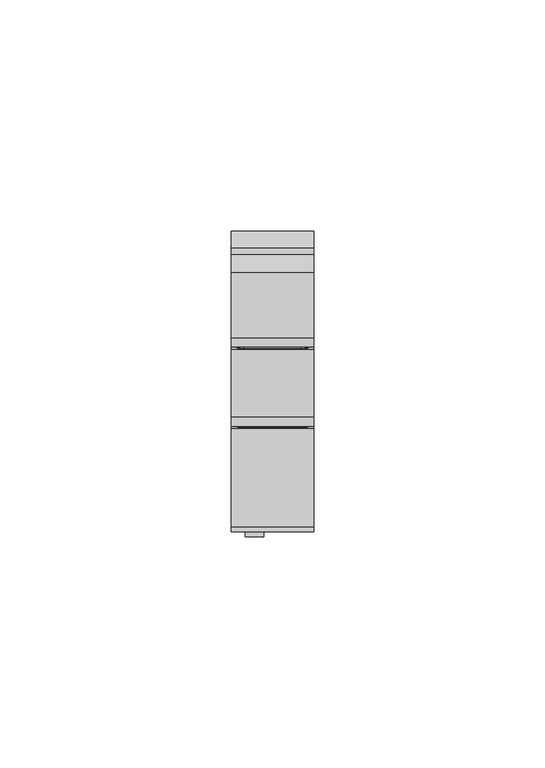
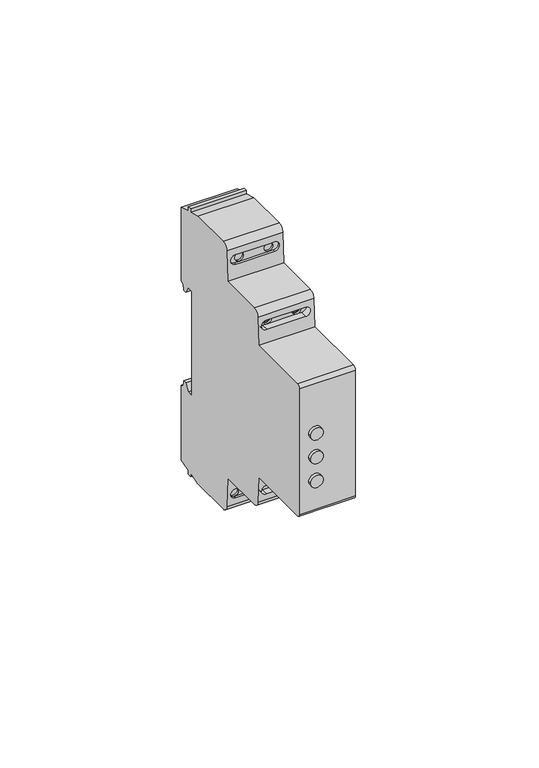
"""IFC4 building model written with IfcOpenShell, lengths in millimetres: proxy geometry, TDM_ОГРАНИЧИТЕЛЬ МОЩНОСТИ СЕРИИ ОМ-611 : Диапазон 0.5-5кВА."""

import ifcopenshell
import ifcopenshell.guid

model = None  # the IFC model being written
_history = None  # IfcOwnerHistory: only IFC2X3 demands one
_inside = {}  # id of a spatial element -> (the spatial element, [elements in it])
_under = {}  # id of a project, library or spatial element -> (it, [spatial elements below it])
_declared = {}  # id of a project -> (the project, [libraries it declares])
_typed = {}  # id of a type object -> (the type object, [elements of that type])
_made_of = {}  # id of a material, layer set ... -> (it, [elements and type objects made of it])


def new_model(schema):
    """Start an empty IFC model of exactly this schema.

    Asked for "IFC4X3", IfcOpenShell would pick the latest addendum, in which some entities
    have other attributes; the version numbers below select the first issue.
    IFC2X3 requires an IfcOwnerHistory on every rooted entity: one is made here for all.
    """
    global model, _history
    if schema == "IFC4X3":
        model = ifcopenshell.file(schema_version=(4, 3, 0, 0))
    else:
        model = ifcopenshell.file(schema=schema)
    _inside.clear()
    _under.clear()
    _declared.clear()
    _typed.clear()
    _made_of.clear()
    _history = None
    if model.schema == "IFC2X3":
        org = make("IfcOrganization", Name="unknown")
        user = make(
            "IfcPersonAndOrganization",
            ThePerson=make("IfcPerson", FamilyName="unknown"),
            TheOrganization=org,
        )
        app = make(
            "IfcApplication",
            ApplicationDeveloper=org,
            Version="unknown",
            ApplicationFullName="unknown",
            ApplicationIdentifier="unknown",
        )
        _history = make(
            "IfcOwnerHistory",
            OwningUser=user,
            OwningApplication=app,
            ChangeAction="ADDED",
            CreationDate=0,
        )
    return model


def make(cls, **values):
    """One entity of the class cls with the attributes given. An attribute that is None is left unset."""
    return model.create_entity(
        cls, **{name: value for name, value in values.items() if value is not None}
    )


def rooted(cls, **values):
    """An entity with a GlobalId (a new one), such as an element, a storey or a relation."""
    return make(cls, GlobalId=ifcopenshell.guid.new(), OwnerHistory=_history, **values)


def si_unit(unit_type, name, prefix=None):
    """IfcSIUnit, for example si_unit("LENGTHUNIT", "METRE", prefix="MILLI")."""
    return make("IfcSIUnit", UnitType=unit_type, Prefix=prefix, Name=name)


def assignment(units):
    """IfcUnitAssignment: the units of a project."""
    return None if units is None else make("IfcUnitAssignment", Units=units)


def point(xyz):
    """IfcCartesianPoint."""
    return None if xyz is None else make("IfcCartesianPoint", Coordinates=xyz)


def direction(xyz):
    """IfcDirection."""
    return None if xyz is None else make("IfcDirection", DirectionRatios=xyz)


def frame(location, z_axis=None, x_axis=None):
    """IfcAxis2Placement3D, a coordinate frame: its origin and axes. An axis left out is left unset."""
    return make(
        "IfcAxis2Placement3D",
        Location=point(location),
        Axis=direction(z_axis),
        RefDirection=direction(x_axis),
    )


def frame_2d(location, x_axis=None):
    """IfcAxis2Placement2D, a coordinate frame in the plane: its origin and x axis."""
    return make(
        "IfcAxis2Placement2D", Location=point(location), RefDirection=direction(x_axis)
    )


def origin():
    """The frame at (0, 0, 0) with its axes left unset."""
    return frame((0.0, 0.0, 0.0))


def place(relative_to, where):
    """IfcLocalPlacement: puts the frame where relative to a parent placement (None: the world)."""
    return make(
        "IfcLocalPlacement", PlacementRelTo=relative_to, RelativePlacement=where
    )


def context(
    kind, dimensions, precision=None, world=None, true_north=None, identifier=None
):
    """IfcGeometricRepresentationContext, for example the 3D "Model" context."""
    return make(
        "IfcGeometricRepresentationContext",
        ContextIdentifier=identifier,
        ContextType=kind,
        CoordinateSpaceDimension=dimensions,
        Precision=precision,
        WorldCoordinateSystem=world,
        TrueNorth=true_north,
    )


def project(units=None, contexts=None):
    """IfcProject with its units and contexts."""
    return rooted(
        "IfcProject",
        Name="project",
        RepresentationContexts=contexts,
        UnitsInContext=assignment(units),
    )


def spatial(cls, under=None, at=None, **own):
    """A site, building, storey or space (cls), placed at a placement, below another one or the project."""
    s = rooted(cls, ObjectPlacement=at, **own)
    if under is not None:
        _under.setdefault(under.id(), (under, []))[1].append(s)
    return s


def polyline(points):
    """IfcPolyline through the points."""
    return make("IfcPolyline", Points=[point(p) for p in points])


def circle_curve(where, radius):
    """IfcCircle in the frame where."""
    return make("IfcCircle", Position=where, Radius=radius)


def ellipse_curve(where, semi_axis1, semi_axis2):
    """IfcEllipse in the frame where."""
    return make(
        "IfcEllipse", Position=where, SemiAxis1=semi_axis1, SemiAxis2=semi_axis2
    )


def trimmed(basis, trim1, trim2, sense, master):
    """IfcTrimmedCurve: the piece of a basis curve between two trims."""
    return make(
        "IfcTrimmedCurve",
        BasisCurve=basis,
        Trim1=trim1,
        Trim2=trim2,
        SenseAgreement=sense,
        MasterRepresentation=master,
    )


def segment(curve, same_sense, transition):
    """IfcCompositeCurveSegment."""
    return make(
        "IfcCompositeCurveSegment",
        Transition=transition,
        SameSense=same_sense,
        ParentCurve=curve,
    )


def composite_curve(segments, self_intersect=None):
    """IfcCompositeCurve: segments joined end to end."""
    return make("IfcCompositeCurve", Segments=segments, SelfIntersect=self_intersect)


def outline(outer, holes=None, kind="AREA"):
    """IfcArbitraryClosedProfileDef: a profile drawn as a closed curve; with holes, ...WithVoids."""
    if holes is None:
        return make("IfcArbitraryClosedProfileDef", ProfileType=kind, OuterCurve=outer)
    return make(
        "IfcArbitraryProfileDefWithVoids",
        ProfileType=kind,
        OuterCurve=outer,
        InnerCurves=holes,
    )


def extrude(swept, where, along, depth):
    """IfcExtrudedAreaSolid: the profile swept, set in the frame where, extruded along a direction by depth."""
    return make(
        "IfcExtrudedAreaSolid",
        SweptArea=swept,
        Position=where,
        ExtrudedDirection=direction(along),
        Depth=depth,
    )


def shape(context_of_items, identifier, shape_type, items):
    """IfcShapeRepresentation: the items that make up one representation, for example the "Body"."""
    return make(
        "IfcShapeRepresentation",
        ContextOfItems=context_of_items,
        RepresentationIdentifier=identifier,
        RepresentationType=shape_type,
        Items=items,
    )


def source(mapping_origin, context_of_items, identifier, shape_type, items):
    """IfcRepresentationMap: a shape defined once, which mapped items show again and again."""
    return make(
        "IfcRepresentationMap",
        MappingOrigin=mapping_origin,
        MappedRepresentation=shape(context_of_items, identifier, shape_type, items),
    )


def transform(
    local_origin,
    x_axis=None,
    y_axis=None,
    z_axis=None,
    scale=None,
    scale2=None,
    scale3=None,
    uniform=True,
):
    """IfcCartesianTransformationOperator3D, or its non-uniform kind. x_axis, y_axis, z_axis: its Axis1, 2, 3."""
    if uniform:
        return make(
            "IfcCartesianTransformationOperator3D",
            Axis1=direction(x_axis),
            Axis2=direction(y_axis),
            LocalOrigin=point(local_origin),
            Scale=scale,
            Axis3=direction(z_axis),
        )
    return make(
        "IfcCartesianTransformationOperator3DnonUniform",
        Axis1=direction(x_axis),
        Axis2=direction(y_axis),
        LocalOrigin=point(local_origin),
        Scale=scale,
        Axis3=direction(z_axis),
        Scale2=scale2,
        Scale3=scale3,
    )


def mapped(mapping_source, mapping_target):
    """IfcMappedItem: shows the shape of a source again, moved by a transform."""
    return make(
        "IfcMappedItem", MappingSource=mapping_source, MappingTarget=mapping_target
    )


def made_of(thing, what):
    """Note that an element or type object is made of a material, layer set ...; save() writes the relation."""
    if what is not None:
        _made_of.setdefault(what.id(), (what, []))[1].append(thing)
    return thing


def element(
    cls,
    number,
    at=None,
    inside=None,
    cuts=None,
    type_object=None,
    material=None,
    context=None,
    identifier="Body",
    shape_type=None,
    held_by="IfcProductDefinitionShape",
    body=None,
    shapes=None,
    **own,
):
    """One element of the class cls, such as IfcWall. Its Tag is "e" and its number.

    at: its placement. inside: the storey or other place that contains it. cuts: it is an
    opening in that element (IfcRelVoidsElement). A single representation is given by context,
    identifier, shape_type and body (its items); several are given by shapes. held_by: the class
    of the entity that holds the representations. save() writes the other relations.
    """
    e = rooted(cls, Tag="e%d" % number, ObjectPlacement=at, **own)
    if body is not None:
        shapes = [shape(context, identifier, shape_type, body)]
    if shapes is not None:
        e.Representation = make(held_by, Representations=shapes)
    if inside is not None:
        _inside.setdefault(inside.id(), (inside, []))[1].append(e)
    if cuts is not None:
        rooted(
            "IfcRelVoidsElement", RelatingBuildingElement=cuts, RelatedOpeningElement=e
        )
    if type_object is not None:
        _typed.setdefault(type_object.id(), (type_object, []))[1].append(e)
    return made_of(e, material)


def aggregate(whole, parts):
    """IfcRelAggregates: a whole, such as a stair, and the parts it consists of."""
    return rooted("IfcRelAggregates", RelatingObject=whole, RelatedObjects=parts)


def save(model, path):
    """Write the relations noted so far, then the file.

    IfcRelAggregates (storeys below a building ...), IfcRelContainedInSpatialStructure (elements
    in a storey), IfcRelDefinesByType, IfcRelAssociatesMaterial and IfcRelDeclares: one each for
    every whole, place, type object, material and project.
    """
    for whole, parts in _under.values():
        aggregate(whole, parts)
    for where, things in _inside.values():
        rooted(
            "IfcRelContainedInSpatialStructure",
            RelatedElements=things,
            RelatingStructure=where,
        )
    for kind, things in _typed.values():
        rooted("IfcRelDefinesByType", RelatedObjects=things, RelatingType=kind)
    for what, things in _made_of.values():
        rooted("IfcRelAssociatesMaterial", RelatedObjects=things, RelatingMaterial=what)
    for by, libraries in _declared.values():
        rooted("IfcRelDeclares", RelatingContext=by, RelatedDefinitions=libraries)
    model.write(path)


def plane_surface(at):
    """IfcPlane: the flat surface through the origin of the frame at, square to its z axis."""
    return make("IfcPlane", Position=at)


def cylinder_surface(at, radius):
    """IfcCylindricalSurface: all points at the distance radius from the z axis of the frame at."""
    return make("IfcCylindricalSurface", Position=at, Radius=radius)


def revolved_surface(curve, axis_point, axis_direction):
    """IfcSurfaceOfRevolution: the curve turned about the line through axis_point along axis_direction."""
    return make(
        "IfcSurfaceOfRevolution",
        SweptCurve=make("IfcArbitraryOpenProfileDef", ProfileType="CURVE", Curve=curve),
        AxisPosition=make("IfcAxis1Placement", Location=point(axis_point), Axis=direction(axis_direction)),
    )


def advanced_brep(points, edges, surfaces, faces):
    """IfcAdvancedBrep: a solid bounded by faces that lie on surfaces and meet in shared edges.

    An edge is (start, end): straight between two places in points (the first is 0);
    or (start, end, curve); or (start, end, curve, False) where it runs against its curve.
    A face is (place in surfaces, loops), or (place, loops, False) where it looks against
    its surface's normal. A loop lists edges by number (the first is 1), with a minus sign
    where the edge is run from its end to its start. The first loop is the outer one.
    """
    corners = [point(p) for p in points]
    vertices = [make("IfcVertexPoint", VertexGeometry=c) for c in corners]
    made = []
    for start, end, *more in edges:
        made.append(
            make(
                "IfcEdgeCurve",
                EdgeStart=vertices[start],
                EdgeEnd=vertices[end],
                EdgeGeometry=more[0] if more else make("IfcPolyline", Points=[corners[start], corners[end]]),
                SameSense=more[1] if len(more) > 1 else True,
            )
        )
    hull = []
    for where, loops, *sense in faces:
        bounds = []
        for j, loop in enumerate(loops):
            ring = [make("IfcOrientedEdge", EdgeElement=made[abs(k) - 1], Orientation=k > 0) for k in loop]
            bounds.append(
                make(
                    "IfcFaceOuterBound" if j == 0 else "IfcFaceBound",
                    Bound=make("IfcEdgeLoop", EdgeList=ring),
                    Orientation=True,
                )
            )
        hull.append(make("IfcAdvancedFace", Bounds=bounds, FaceSurface=surfaces[where], SameSense=sense[0] if sense else True))
    return make("IfcAdvancedBrep", Outer=make("IfcClosedShell", CfsFaces=hull))


def electrical_equipment_c9d6e839(model_context):
    return source(origin(), model_context, "Body", "SolidModel", [
        advanced_brep(
        [(7.75, 14.1138713, 30.3732323), (7.75, -1.4600795, 30.3732323), (7.75, -1.4600795, 23.4004542), (7.75, 14.1138713, 23.4004542), (7.75, 14.1138713, -44.0625), (7.75, 16.6821204, -44.0625), (7.75, 16.6821204, 43.7501081), (7.75, 14.1138713, 43.7501081), (-7.75, 14.1138713, 30.3732323), (-7.75, 14.1138713, 43.7501081), (-7.75, 16.6821204, 43.7501081), (-7.75, 16.6821204, -44.0625), (-7.75, 14.1138713, -44.0625), (-7.75, 14.1138713, 23.4004542), (-7.75, -1.4600795, 23.4004542), (-7.75, -1.4600795, 30.3732323), (6.1875, -1.4600795, 27.6999754), (3.1875, -1.4600795, 27.6999754), (-6.1875, -1.4600795, 27.6999754), (-3.1875, -1.4600795, 27.6999754), (3.1875, -1.0093135, 27.6999754), (6.1875, -1.0093135, 27.6999754), (-3.1875, -1.0093135, 27.6999754), (-6.1875, -1.0093135, 27.6999754)],
        [
            (0, 1),
            (1, 2),
            (2, 3),
            (3, 4),
            (4, 5),
            (5, 6),
            (6, 7),
            (7, 0),
            (8, 9),
            (9, 10),
            (10, 11),
            (11, 12),
            (12, 13),
            (13, 14),
            (14, 15),
            (15, 8),
            (4, 12),
            (11, 5),
            (10, 6),
            (9, 7),
            (8, 0),
            (15, 1),
            (14, 2),
            (16, 17, circle_curve(frame((4.6875, -1.4600795, 27.6999754), z_axis=(0.0, 1.0, 0.0), x_axis=(1.0, 0.0, 0.0)), 1.5)),
            (17, 16, circle_curve(frame((4.6875, -1.4600795, 27.6999754), z_axis=(0.0, 1.0, 0.0), x_axis=(1.0, 0.0, 0.0)), 1.5)),
            (18, 19, circle_curve(frame((-4.6875, -1.4600795, 27.6999754), z_axis=(0.0, 1.0, 0.0), x_axis=(-1.0, 0.0, 0.0)), 1.5)),
            (19, 18, circle_curve(frame((-4.6875, -1.4600795, 27.6999754), z_axis=(0.0, 1.0, 0.0), x_axis=(-1.0, 0.0, 0.0)), 1.5)),
            (13, 3),
            (20, 21, circle_curve(frame((4.6875, -1.0093135, 27.6999754), z_axis=(0.0, -1.0, 0.0), x_axis=(1.0, 0.0, 0.0)), 1.5)),
            (21, 20, circle_curve(frame((4.6875, -1.0093135, 27.6999754), z_axis=(0.0, -1.0, 0.0), x_axis=(1.0, 0.0, 0.0)), 1.5)),
            (22, 23, circle_curve(frame((-4.6875, -1.0093135, 27.6999754), z_axis=(0.0, -1.0, 0.0), x_axis=(-1.0, 0.0, 0.0)), 1.5)),
            (23, 22, circle_curve(frame((-4.6875, -1.0093135, 27.6999754), z_axis=(0.0, -1.0, 0.0), x_axis=(-1.0, 0.0, 0.0)), 1.5)),
            (20, 17),
            (16, 21),
            (22, 19),
            (18, 23),
        ],
        [
            plane_surface(frame((7.75, -2.0892895, 30.3732323), z_axis=(1.0, 0.0, 0.0), x_axis=(0.0, -1.0, 0.0))),
            plane_surface(frame((-7.75, -2.0892895, 30.3732323), z_axis=(-1.0, 0.0, 0.0), x_axis=(0.0, 1.0, 0.0))),
            plane_surface(frame((7.75, 14.1138713, -44.0625), z_axis=(0.0, 0.0, -1.0), x_axis=(-1.0, 0.0, 0.0))),
            plane_surface(frame((7.75, 16.6821204, -44.0625), z_axis=(0.0, 1.0, 0.0), x_axis=(-1.0, 0.0, 0.0))),
            plane_surface(frame((7.75, 16.6821204, 43.7501081), z_axis=(0.0, 0.0, 1.0), x_axis=(-1.0, 0.0, 0.0))),
            plane_surface(frame((7.75, 14.1138713, 43.7501081), z_axis=(0.0, -1.0, 0.0), x_axis=(-1.0, 0.0, 0.0))),
            plane_surface(frame((7.75, 14.1138713, 30.3732323), z_axis=(0.0, 0.0, 1.0), x_axis=(-1.0, 0.0, 0.0))),
            plane_surface(frame((7.75, -1.4600795, 30.3732323), z_axis=(0.0, -1.0, 0.0), x_axis=(-1.0, 0.0, 0.0))),
            plane_surface(frame((7.75, -1.4600795, 23.4004542), z_axis=(0.0, 0.0, -1.0), x_axis=(-1.0, 0.0, 0.0))),
            plane_surface(frame((7.75, 14.1138713, 23.4004542), z_axis=(0.0, -1.0, 0.0), x_axis=(-1.0, 0.0, 0.0))),
            plane_surface(frame((6.1875, -1.0093135, 27.6999754), z_axis=(0.0, -1.0, 0.0), x_axis=(0.0, 0.0, -1.0))),
            revolved_surface(polyline([(6.1875, -1.4600795, 27.6999754), (6.1875, -1.0093135, 27.6999754)]), (4.6875, -1.0093135, 27.6999754), (0.0, -1.0, 0.0)),
            revolved_surface(polyline([(-6.1875, -1.4600795, 27.6999754), (-6.1875, -1.0093135, 27.6999754)]), (-4.6875, 0.0, 27.6999754), (0.0, -1.0, 0.0)),
        ],
        [
            (0, [[1, 2, 3, 4, 5, 6, 7, 8]]),
            (1, [[9, 10, 11, 12, 13, 14, 15, 16]]),
            (2, [[-5, 17, -12, 18]]),
            (3, [[-6, -18, -11, 19]]),
            (4, [[-7, -19, -10, 20]]),
            (5, [[-8, -20, -9, 21]]),
            (6, [[-1, -21, -16, 22]]),
            (7, [[-2, -22, -15, 23], [24, 25], [26, 27]]),
            (8, [[-3, -23, -14, 28]]),
            (9, [[-4, -28, -13, -17]]),
            (10, [[29, 30]]),
            (10, [[31, 32]]),
            (11, [[-29, 33, -24, 34]]),
            (11, [[-30, -34, -25, -33]]),
            (12, [[-31, 35, -26, 36]]),
            (12, [[-32, -36, -27, -35]]),
        ],
    ),
        extrude(outline(composite_curve([segment(trimmed(circle_curve(frame_2d((4.6243959, -3.90625)), 2.0), [point((4.6243959, -5.90625))], [point((4.6243959, -1.90625))], False, "CARTESIAN"), True, "CONTINUOUS"), segment(trimmed(circle_curve(frame_2d((4.6243959, -3.90625)), 2.0), [point((4.6243959, -1.90625))], [point((4.6243959, -5.90625))], False, "CARTESIAN"), True, "CONTINUOUS")], self_intersect=False)), frame((0.0, -28.520508, 0.0), z_axis=(0.0, 1.0, 0.0), x_axis=(0.0, 0.0, 1.0)), (0.0, 0.0, 1.0), 1.020508),
        extrude(outline(composite_curve([segment(trimmed(circle_curve(frame_2d((-3.3756041, -3.90625)), 2.0), [point((-3.3756041, -5.90625))], [point((-3.3756041, -1.90625))], False, "CARTESIAN"), True, "CONTINUOUS"), segment(trimmed(circle_curve(frame_2d((-3.3756041, -3.90625)), 2.0), [point((-3.3756041, -1.90625))], [point((-3.3756041, -5.90625))], False, "CARTESIAN"), True, "CONTINUOUS")], self_intersect=False)), frame((0.0, -28.520508, 0.0), z_axis=(0.0, 1.0, 0.0), x_axis=(0.0, 0.0, 1.0)), (0.0, 0.0, 1.0), 1.020508),
        extrude(outline(composite_curve([segment(trimmed(circle_curve(frame_2d((-11.3756041, -3.90625)), 2.0), [point((-11.3756041, -5.90625))], [point((-11.3756041, -1.90625))], False, "CARTESIAN"), True, "CONTINUOUS"), segment(trimmed(circle_curve(frame_2d((-11.3756041, -3.90625)), 2.0), [point((-11.3756041, -1.90625))], [point((-11.3756041, -5.90625))], False, "CARTESIAN"), True, "CONTINUOUS")], self_intersect=False)), frame((0.0, -28.520508, 0.0), z_axis=(0.0, 1.0, 0.0), x_axis=(0.0, 0.0, 1.0)), (0.0, 0.0, 1.0), 1.020508),
        advanced_brep(
        [(8.9, 31.7632568, 17.7057143), (8.9, 33.7632568, 17.7057143), (8.9, 35.0790621, 15.4266726), (8.9, 36.2042493, 15.4266726), (8.9, 36.5256071, 17.2491835), (8.9, 37.5, 17.8117495), (8.9, 37.5, 42.6031417), (8.9, 33.7858621, 43.5983419), (8.9, 33.7858621, 45.0), (8.9, 32.5, 45.0), (8.9, 32.5, 43.9428876), (8.9, 28.5548029, 45.0), (8.9, 14.5, 45.0), (8.9, 12.5, 43.0), (8.9, 11.9790691, 33.0600462), (8.9, -2.6020709, 33.0600462), (8.9, -4.5993299, 31.1647181), (8.9, -5.0796325, 22.0), (8.9, -26.3777313, 22.0), (8.9, -27.5, 20.8777313), (8.9, -27.5, -21.3875602), (8.9, -26.3875602, -22.5), (8.9, -5.0534286, -22.5), (8.9, -4.5993299, -31.1647181), (8.9, -2.6020709, -33.0600462), (8.9, 11.9790691, -33.0600462), (8.9, 12.5, -43.0), (8.9, 14.5, -45.0), (8.9, 28.5548029, -45.0), (8.9, 32.5, -43.9428876), (8.9, 32.5, -45.0), (8.9, 33.7858621, -45.0), (8.9, 33.7858621, -43.5983419), (8.9, 37.5, -42.6031417), (8.9, 37.5, -17.4003208), (8.9, 36.5256071, -16.8377548), (8.9, 36.2042493, -15.0152439), (8.9, 35.0790621, -15.0152439), (8.9, 33.7632568, -17.2942857), (8.9, 31.7632568, -17.2942857), (-8.9, 31.7632568, 17.7057143), (-8.9, 31.7632568, -17.2942857), (-8.9, 33.7632568, -17.2942857), (-8.9, 35.0790621, -15.0152439), (-8.9, 36.2042493, -15.0152439), (-8.9, 36.5256071, -16.8377548), (-8.9, 37.5, -17.4003208), (-8.9, 37.5, -42.6031417), (-8.9, 33.7858621, -43.5983419), (-8.9, 33.7858621, -45.0), (-8.9, 32.5, -45.0), (-8.9, 32.5, -43.9428876), (-8.9, 28.5548029, -45.0), (-8.9, 14.5, -45.0), (-8.9, 12.5, -43.0), (-8.9, 11.9790691, -33.0600462), (-8.9, -2.6020709, -33.0600462), (-8.9, -4.5993299, -31.1647181), (-8.9, -5.0534286, -22.5), (-8.9, -26.3875602, -22.5), (-8.9, -27.5, -21.3875602), (-8.9, -27.5, 20.8777313), (-8.9, -26.3777313, 22.0), (-8.9, -5.0796325, 22.0), (-8.9, -4.5993299, 31.1647181), (-8.9, -2.6020709, 33.0600462), (-8.9, 11.9790691, 33.0600462), (-8.9, 12.5, 43.0), (-8.9, 14.5, 45.0), (-8.9, 28.5548029, 45.0), (-8.9, 32.5, 43.9428876), (-8.9, 32.5, 45.0), (-8.9, 33.7858621, 45.0), (-8.9, 33.7858621, 43.5983419), (-8.9, 37.5, 42.6031417), (-8.9, 37.5, 17.8117495), (-8.9, 36.5256071, 17.2491835), (-8.9, 36.2042493, 15.4266726), (-8.9, 35.0790621, 15.4266726), (-8.9, 33.7632568, 17.7057143), (6.25, 13.0378948, -37.8135116), (0.0239013, 13.0378948, -37.8135116), (1.5239013, 13.0378948, -39.3135116), (0.0239013, 13.0378948, -40.8135116), (6.25, 13.0378948, -40.8135116), (4.75, 13.0378948, -39.3135116), (-6.25, 13.0378948, -37.8135116), (-4.75, 13.0378948, -39.3135116), (-6.25, 13.0378948, -40.8135116), (-1.4760987, 13.0378948, -39.3135116), (6.25, 13.0378948, 37.8135116), (6.25, 13.0378948, 40.8135116), (4.6875, 13.0378948, 40.8135116), (6.1875, 13.0378948, 39.3135116), (4.6875, 13.0378948, 37.8135116), (-6.25, 13.0378948, 40.8135116), (-6.25, 13.0378948, 37.8135116), (-4.6875, 13.0378948, 37.8135116), (-6.1875, 13.0378948, 39.3135116), (-4.6875, 13.0378948, 40.8135116), (-3.1875, 13.0378948, 39.3135116), (3.1875, 13.0378948, 39.3135116), (6.25, 12.385411, 40.8135116), (6.25, 12.2281877, 37.8135116), (4.6875, 12.2281877, 37.8135116), (-4.6875, 12.2281877, 37.8135116), (-6.25, 12.2281877, 37.8135116), (-6.25, 12.385411, 40.8135116), (-4.6875, 12.385411, 40.8135116), (4.6875, 12.385411, 40.8135116), (6.25, -4.7022977, 29.1999754), (6.25, -4.8595211, 26.1999754), (-6.25, -4.8595211, 26.1999754), (-6.25, -4.7022977, 29.1999754), (-6.25, -4.8595211, -26.1999754), (6.25, -4.8595211, -26.1999754), (6.25, -4.7022977, -29.1999754), (-6.25, -4.7022977, -29.1999754), (0.0239013, 12.2281877, -37.8135116), (6.25, 12.2281877, -37.8135116), (7.75, 12.3067993, -39.3135116), (6.25, 12.385411, -40.8135116), (0.0239013, 12.385411, -40.8135116), (-6.25, 12.385411, -40.8135116), (-7.75, 12.3067993, -39.3135116), (-6.25, 12.2281877, -37.8135116), (-7.75, 13.0378948, -39.3135116), (7.75, 13.0378948, -39.3135116), (-4.75, 15.2465164, -39.3135116), (-7.75, 15.2465164, -39.3135116), (1.5239013, 15.2465164, -39.3135116), (-1.4760987, 15.2465164, -39.3135116), (4.75, 15.2465164, -39.3135116), (7.75, 15.2465164, -39.3135116), (-3.1875, 15.2465164, 39.3135116), (-6.1875, 15.2465164, 39.3135116), (3.1875, 15.2465164, 39.3135116), (6.1875, 15.2465164, 39.3135116), (3.1875, -1.0093135, 27.6999754), (6.1875, -1.0093135, 27.6999754), (-3.1875, -1.0093135, 27.6999754), (-6.1875, -1.0093135, 27.6999754), (3.1875, -2.4542234, 27.6999754), (4.6875, -2.4542234, 26.1999754), (6.1875, -2.4542234, 27.6999754), (4.6875, -2.4542234, 29.1999754), (-3.1875, -2.4542234, 27.6999754), (-4.6875, -2.4542234, 29.1999754), (-6.1875, -2.4542234, 27.6999754), (-4.6875, -2.4542234, 26.1999754), (6.25, -2.4542234, -26.1999754), (-6.25, -2.4542234, -26.1999754), (-6.25, -2.4542234, -29.1999754), (6.25, -2.4542234, -29.1999754), (6.25, -2.4542234, 26.1999754), (6.25, -2.4542234, 29.1999754), (-6.25, -2.4542234, 29.1999754), (-6.25, -2.4542234, 26.1999754)],
        [
            (0, 1),
            (1, 2),
            (2, 3),
            (3, 4),
            (4, 5),
            (5, 6),
            (6, 7),
            (7, 8),
            (8, 9),
            (9, 10),
            (10, 11),
            (11, 12),
            (12, 13, circle_curve(frame((8.9, 14.5, 43.0), z_axis=(1.0, 0.0, 0.0), x_axis=(0.0, -1.0, 0.0)), 2.0)),
            (13, 14),
            (14, 15),
            (15, 16, circle_curve(frame((8.9, -2.6020709, 31.0600462), z_axis=(1.0, 0.0, 0.0), x_axis=(0.0, -1.0, 0.0)), 2.0)),
            (16, 17),
            (17, 18),
            (18, 19, circle_curve(frame((8.9, -26.3777313, 20.8777313), z_axis=(1.0, 0.0, 0.0), x_axis=(0.0, -1.0, 0.0)), 1.1222687)),
            (19, 20),
            (20, 21, circle_curve(frame((8.9, -26.3875602, -21.3875602), z_axis=(1.0, 0.0, 0.0), x_axis=(0.0, -1.0, 0.0)), 1.1124398)),
            (21, 22),
            (22, 23),
            (23, 24, circle_curve(frame((8.9, -2.6020709, -31.0600462), z_axis=(1.0, 0.0, 0.0), x_axis=(0.0, -1.0, 0.0)), 2.0)),
            (24, 25),
            (25, 26),
            (26, 27, circle_curve(frame((8.9, 14.5, -43.0), z_axis=(1.0, 0.0, 0.0), x_axis=(0.0, -1.0, 0.0)), 2.0)),
            (27, 28),
            (28, 29),
            (29, 30),
            (30, 31),
            (31, 32),
            (32, 33),
            (33, 34),
            (34, 35),
            (35, 36),
            (36, 37),
            (37, 38),
            (38, 39),
            (39, 0),
            (40, 41),
            (41, 42),
            (42, 43),
            (43, 44),
            (44, 45),
            (45, 46),
            (46, 47),
            (47, 48),
            (48, 49),
            (49, 50),
            (50, 51),
            (51, 52),
            (52, 53),
            (53, 54, circle_curve(frame((-8.9, 14.5, -43.0), z_axis=(-1.0, 0.0, 0.0), x_axis=(0.0, -1.0, 0.0)), 2.0)),
            (54, 55),
            (55, 56),
            (56, 57, circle_curve(frame((-8.9, -2.6020709, -31.0600462), z_axis=(-1.0, 0.0, 0.0), x_axis=(0.0, -1.0, 0.0)), 2.0)),
            (57, 58),
            (58, 59),
            (59, 60, circle_curve(frame((-8.9, -26.3875602, -21.3875602), z_axis=(-1.0, 0.0, 0.0), x_axis=(0.0, -1.0, 0.0)), 1.1124398)),
            (60, 61),
            (61, 62, circle_curve(frame((-8.9, -26.3777313, 20.8777313), z_axis=(-1.0, 0.0, 0.0), x_axis=(0.0, -1.0, 0.0)), 1.1222687)),
            (62, 63),
            (63, 64),
            (64, 65, circle_curve(frame((-8.9, -2.6020709, 31.0600462), z_axis=(-1.0, 0.0, 0.0), x_axis=(0.0, -1.0, 0.0)), 2.0)),
            (65, 66),
            (66, 67),
            (67, 68, circle_curve(frame((-8.9, 14.5, 43.0), z_axis=(-1.0, 0.0, 0.0), x_axis=(0.0, -1.0, 0.0)), 2.0)),
            (68, 69),
            (69, 70),
            (70, 71),
            (71, 72),
            (72, 73),
            (73, 74),
            (74, 75),
            (75, 76),
            (76, 77),
            (77, 78),
            (78, 79),
            (79, 40),
            (80, 81),
            (81, 82, circle_curve(frame((0.0239013, 13.0378948, -39.3135116), z_axis=(0.0, 1.0, 0.0), x_axis=(-1.0, 0.0, 0.0)), 1.5)),
            (82, 83, circle_curve(frame((0.0239013, 13.0378948, -39.3135116), z_axis=(0.0, 1.0, 0.0), x_axis=(-1.0, 0.0, 0.0)), 1.5)),
            (83, 84),
            (84, 85, circle_curve(frame((6.25, 13.0378948, -39.3135116), z_axis=(0.0, 1.0, 0.0), x_axis=(1.0, 0.0, 0.0)), 1.5)),
            (85, 80, circle_curve(frame((6.25, 13.0378948, -39.3135116), z_axis=(0.0, 1.0, 0.0), x_axis=(1.0, 0.0, 0.0)), 1.5)),
            (81, 86),
            (86, 87, circle_curve(frame((-6.25, 13.0378948, -39.3135116), z_axis=(0.0, 1.0, 0.0), x_axis=(-1.0, 0.0, 0.0)), 1.5)),
            (87, 88, circle_curve(frame((-6.25, 13.0378948, -39.3135116), z_axis=(0.0, 1.0, 0.0), x_axis=(-1.0, 0.0, 0.0)), 1.5)),
            (88, 83),
            (83, 89, circle_curve(frame((0.0239013, 13.0378948, -39.3135116), z_axis=(0.0, 1.0, 0.0), x_axis=(-1.0, 0.0, 0.0)), 1.5)),
            (89, 81, circle_curve(frame((0.0239013, 13.0378948, -39.3135116), z_axis=(0.0, 1.0, 0.0), x_axis=(-1.0, 0.0, 0.0)), 1.5)),
            (90, 91, circle_curve(frame((6.25, 13.0378948, 39.3135116), z_axis=(0.0, -1.0, 0.0), x_axis=(1.0, 0.0, 0.0)), 1.5)),
            (91, 92),
            (92, 93, circle_curve(frame((4.6875, 13.0378948, 39.3135116), z_axis=(0.0, 1.0, 0.0), x_axis=(1.0, 0.0, 0.0)), 1.5)),
            (93, 94, circle_curve(frame((4.6875, 13.0378948, 39.3135116), z_axis=(0.0, 1.0, 0.0), x_axis=(1.0, 0.0, 0.0)), 1.5)),
            (94, 90),
            (95, 96, circle_curve(frame((-6.25, 13.0378948, 39.3135116), z_axis=(0.0, -1.0, 0.0), x_axis=(-1.0, 0.0, 0.0)), 1.5)),
            (96, 97),
            (97, 98, circle_curve(frame((-4.6875, 13.0378948, 39.3135116), z_axis=(0.0, 1.0, 0.0), x_axis=(-1.0, 0.0, 0.0)), 1.5)),
            (98, 99, circle_curve(frame((-4.6875, 13.0378948, 39.3135116), z_axis=(0.0, 1.0, 0.0), x_axis=(-1.0, 0.0, 0.0)), 1.5)),
            (99, 95),
            (92, 99),
            (99, 100, circle_curve(frame((-4.6875, 13.0378948, 39.3135116), z_axis=(0.0, 1.0, 0.0), x_axis=(-1.0, 0.0, 0.0)), 1.5)),
            (100, 97, circle_curve(frame((-4.6875, 13.0378948, 39.3135116), z_axis=(0.0, 1.0, 0.0), x_axis=(-1.0, 0.0, 0.0)), 1.5)),
            (97, 94),
            (94, 101, circle_curve(frame((4.6875, 13.0378948, 39.3135116), z_axis=(0.0, 1.0, 0.0), x_axis=(1.0, 0.0, 0.0)), 1.5)),
            (101, 92, circle_curve(frame((4.6875, 13.0378948, 39.3135116), z_axis=(0.0, 1.0, 0.0), x_axis=(1.0, 0.0, 0.0)), 1.5)),
            (0, 40),
            (79, 1),
            (78, 2),
            (77, 3),
            (76, 4),
            (75, 5),
            (74, 6),
            (11, 69),
            (68, 12),
            (67, 13),
            (66, 14),
            (102, 103, ellipse_curve(frame((6.25, 12.3067993, 39.3135116), z_axis=(0.0, 0.9986295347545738, -0.052335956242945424), x_axis=(0.0, -0.052335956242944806, -0.9986295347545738)), 1.5020585, 1.5)),
            (103, 104),
            (104, 105),
            (105, 106),
            (106, 107, ellipse_curve(frame((-6.25, 12.3067993, 39.3135116), z_axis=(0.0, 0.9986295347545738, -0.052335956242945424), x_axis=(0.0, -0.052335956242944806, -0.9986295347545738)), 1.5020585, 1.5)),
            (107, 108),
            (108, 109),
            (109, 102),
            (65, 15),
            (64, 16),
            (63, 17),
            (110, 111, ellipse_curve(frame((6.25, -4.7809094, 27.6999754), z_axis=(0.0, 0.9986295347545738, -0.052335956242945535), x_axis=(0.0, -0.0523359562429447, -0.9986295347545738)), 1.5020585, 1.5)),
            (111, 112),
            (112, 113, ellipse_curve(frame((-6.25, -4.7809094, 27.6999754), z_axis=(0.0, 0.9986295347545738, -0.052335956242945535), x_axis=(0.0, -0.0523359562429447, -0.9986295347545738)), 1.5020585, 1.5)),
            (113, 110),
            (62, 18),
            (61, 19),
            (60, 20),
            (21, 59),
            (58, 22),
            (57, 23),
            (114, 115),
            (115, 116, ellipse_curve(frame((6.25, -4.7809094, -27.6999754), z_axis=(0.0, 0.9986295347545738, 0.0523359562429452), x_axis=(0.0, -0.052335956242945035, 0.9986295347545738)), 1.5020585, 1.5)),
            (116, 117),
            (117, 114, ellipse_curve(frame((-6.25, -4.7809094, -27.6999754), z_axis=(0.0, 0.9986295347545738, 0.0523359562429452), x_axis=(0.0, -0.052335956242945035, 0.9986295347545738)), 1.5020585, 1.5)),
            (56, 24),
            (55, 25),
            (54, 26),
            (118, 119),
            (119, 120, ellipse_curve(frame((6.25, 12.3067993, -39.3135116), z_axis=(0.0, 0.9986295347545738, 0.05233595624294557), x_axis=(0.0, -0.05233595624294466, 0.9986295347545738)), 1.5020585, 1.5)),
            (120, 121, ellipse_curve(frame((6.25, 12.3067993, -39.3135116), z_axis=(0.0, 0.9986295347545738, 0.05233595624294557), x_axis=(0.0, -0.05233595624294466, 0.9986295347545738)), 1.5020585, 1.5)),
            (121, 122),
            (122, 123),
            (123, 124, ellipse_curve(frame((-6.25, 12.3067993, -39.3135116), z_axis=(0.0, 0.9986295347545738, 0.05233595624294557), x_axis=(0.0, -0.05233595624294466, 0.9986295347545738)), 1.5020585, 1.5)),
            (124, 125, ellipse_curve(frame((-6.25, 12.3067993, -39.3135116), z_axis=(0.0, 0.9986295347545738, 0.05233595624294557), x_axis=(0.0, -0.05233595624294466, 0.9986295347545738)), 1.5020585, 1.5)),
            (125, 118),
            (53, 27),
            (52, 28),
            (30, 50),
            (49, 31),
            (48, 32),
            (51, 29),
            (33, 47),
            (46, 34),
            (45, 35),
            (44, 36),
            (43, 37),
            (42, 38),
            (41, 39),
            (80, 119),
            (125, 86),
            (123, 88),
            (88, 126, circle_curve(frame((-6.25, 13.0378948, -39.3135116), z_axis=(0.0, 1.0, 0.0), x_axis=(-1.0, 0.0, 0.0)), 1.5)),
            (126, 86, circle_curve(frame((-6.25, 13.0378948, -39.3135116), z_axis=(0.0, 1.0, 0.0), x_axis=(-1.0, 0.0, 0.0)), 1.5)),
            (121, 84),
            (80, 127, circle_curve(frame((6.25, 13.0378948, -39.3135116), z_axis=(0.0, 1.0, 0.0), x_axis=(1.0, 0.0, 0.0)), 1.5)),
            (127, 84, circle_curve(frame((6.25, 13.0378948, -39.3135116), z_axis=(0.0, 1.0, 0.0), x_axis=(1.0, 0.0, 0.0)), 1.5)),
            (90, 103),
            (102, 91),
            (107, 95),
            (106, 96),
            (128, 129, circle_curve(frame((-6.25, 15.2465164, -39.3135116), z_axis=(0.0, -1.0, 0.0), x_axis=(-1.0, 0.0, 0.0)), 1.5)),
            (129, 128, circle_curve(frame((-6.25, 15.2465164, -39.3135116), z_axis=(0.0, -1.0, 0.0), x_axis=(-1.0, 0.0, 0.0)), 1.5)),
            (130, 131, circle_curve(frame((0.0239013, 15.2465164, -39.3135116), z_axis=(0.0, -1.0, 0.0), x_axis=(-1.0, 0.0, 0.0)), 1.5)),
            (131, 130, circle_curve(frame((0.0239013, 15.2465164, -39.3135116), z_axis=(0.0, -1.0, 0.0), x_axis=(-1.0, 0.0, 0.0)), 1.5)),
            (132, 133, circle_curve(frame((6.25, 15.2465164, -39.3135116), z_axis=(0.0, -1.0, 0.0), x_axis=(1.0, 0.0, 0.0)), 1.5)),
            (133, 132, circle_curve(frame((6.25, 15.2465164, -39.3135116), z_axis=(0.0, -1.0, 0.0), x_axis=(1.0, 0.0, 0.0)), 1.5)),
            (134, 135, circle_curve(frame((-4.6875, 15.2465164, 39.3135116), z_axis=(0.0, -1.0, 0.0), x_axis=(-1.0, 0.0, 0.0)), 1.5)),
            (135, 134, circle_curve(frame((-4.6875, 15.2465164, 39.3135116), z_axis=(0.0, -1.0, 0.0), x_axis=(-1.0, 0.0, 0.0)), 1.5)),
            (136, 137, circle_curve(frame((4.6875, 15.2465164, 39.3135116), z_axis=(0.0, -1.0, 0.0), x_axis=(1.0, 0.0, 0.0)), 1.5)),
            (137, 136, circle_curve(frame((4.6875, 15.2465164, 39.3135116), z_axis=(0.0, -1.0, 0.0), x_axis=(1.0, 0.0, 0.0)), 1.5)),
            (128, 87),
            (126, 129),
            (130, 82),
            (89, 131),
            (132, 85),
            (127, 133),
            (134, 100),
            (98, 135),
            (136, 101),
            (93, 137),
            (138, 139, circle_curve(frame((4.6875, -1.0093135, 27.6999754), z_axis=(0.0, -1.0, 0.0), x_axis=(1.0, 0.0, 0.0)), 1.5)),
            (139, 138, circle_curve(frame((4.6875, -1.0093135, 27.6999754), z_axis=(0.0, -1.0, 0.0), x_axis=(1.0, 0.0, 0.0)), 1.5)),
            (140, 141, circle_curve(frame((-4.6875, -1.0093135, 27.6999754), z_axis=(0.0, -1.0, 0.0), x_axis=(-1.0, 0.0, 0.0)), 1.5)),
            (141, 140, circle_curve(frame((-4.6875, -1.0093135, 27.6999754), z_axis=(0.0, -1.0, 0.0), x_axis=(-1.0, 0.0, 0.0)), 1.5)),
            (138, 142),
            (142, 143, circle_curve(frame((4.6875, -2.4542234, 27.6999754), z_axis=(0.0, -1.0, 0.0), x_axis=(1.0, 0.0, 0.0)), 1.5)),
            (143, 144, circle_curve(frame((4.6875, -2.4542234, 27.6999754), z_axis=(0.0, -1.0, 0.0), x_axis=(1.0, 0.0, 0.0)), 1.5)),
            (144, 139),
            (144, 145, circle_curve(frame((4.6875, -2.4542234, 27.6999754), z_axis=(0.0, -1.0, 0.0), x_axis=(1.0, 0.0, 0.0)), 1.5)),
            (145, 142, circle_curve(frame((4.6875, -2.4542234, 27.6999754), z_axis=(0.0, -1.0, 0.0), x_axis=(1.0, 0.0, 0.0)), 1.5)),
            (140, 146),
            (146, 147, circle_curve(frame((-4.6875, -2.4542234, 27.6999754), z_axis=(0.0, -1.0, 0.0), x_axis=(-1.0, 0.0, 0.0)), 1.5)),
            (147, 148, circle_curve(frame((-4.6875, -2.4542234, 27.6999754), z_axis=(0.0, -1.0, 0.0), x_axis=(-1.0, 0.0, 0.0)), 1.5)),
            (148, 141),
            (148, 149, circle_curve(frame((-4.6875, -2.4542234, 27.6999754), z_axis=(0.0, -1.0, 0.0), x_axis=(-1.0, 0.0, 0.0)), 1.5)),
            (149, 146, circle_curve(frame((-4.6875, -2.4542234, 27.6999754), z_axis=(0.0, -1.0, 0.0), x_axis=(-1.0, 0.0, 0.0)), 1.5)),
            (73, 7),
            (72, 8),
            (71, 9),
            (70, 10),
            (150, 151),
            (151, 152, circle_curve(frame((-6.25, -2.4542234, -27.6999754), z_axis=(0.0, -1.0, 0.0), x_axis=(-1.0, 0.0, 0.0)), 1.5)),
            (152, 153),
            (153, 150, circle_curve(frame((6.25, -2.4542234, -27.6999754), z_axis=(0.0, -1.0, 0.0), x_axis=(1.0, 0.0, 0.0)), 1.5)),
            (154, 155, circle_curve(frame((6.25, -2.4542234, 27.6999754), z_axis=(0.0, -1.0, 0.0), x_axis=(1.0, 0.0, 0.0)), 1.5)),
            (155, 145),
            (143, 154),
            (156, 157, circle_curve(frame((-6.25, -2.4542234, 27.6999754), z_axis=(0.0, -1.0, 0.0), x_axis=(-1.0, 0.0, 0.0)), 1.5)),
            (157, 149),
            (147, 156),
            (145, 147),
            (149, 143),
            (150, 115),
            (114, 151),
            (117, 152),
            (116, 153),
            (154, 111),
            (110, 155),
            (113, 156),
            (112, 157),
        ],
        [
            plane_surface(frame((8.9, 31.7632568, 17.7057143), z_axis=(1.0, 0.0, 0.0), x_axis=(0.0, 1.0, 0.0))),
            plane_surface(frame((-8.9, 31.7632568, 17.7057143), z_axis=(-1.0, 0.0, 0.0), x_axis=(0.0, -1.0, 0.0))),
            plane_surface(frame((-7.75, 13.0378948, -37.8135116), z_axis=(0.0, -1.0, 0.0), x_axis=(1.0, 0.0, 0.0))),
            plane_surface(frame((8.9, 31.7632568, 17.7057143), z_axis=(0.0, 0.0, -1.0), x_axis=(-1.0, 0.0, 0.0))),
            plane_surface(frame((8.9, 33.7632568, 17.7057143), z_axis=(0.0, -0.8660254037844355, -0.5000000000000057), x_axis=(-1.0, 0.0, 0.0))),
            plane_surface(frame((8.9, 35.0790621, 15.4266726), z_axis=(0.0, 0.0, -1.0), x_axis=(-1.0, 0.0, 0.0))),
            plane_surface(frame((8.9, 36.2042493, 15.4266726), z_axis=(0.0, 0.984807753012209, -0.17364817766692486), x_axis=(-1.0, 0.0, 0.0))),
            plane_surface(frame((8.9, 36.5256071, 17.2491835), z_axis=(0.0, 0.5000000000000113, -0.8660254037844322), x_axis=(-1.0, 0.0, 0.0))),
            plane_surface(frame((8.9, 37.5, 17.8117495), z_axis=(0.0, 1.0, 0.0), x_axis=(-1.0, 0.0, 0.0))),
            plane_surface(frame((8.9, 28.5548029, 45.0), z_axis=(0.0, 0.0, 1.0), x_axis=(-1.0, 0.0, 0.0))),
            cylinder_surface(frame((-8.9, 14.5, 43.0), z_axis=(1.0, 0.0, 0.0), x_axis=(0.0, -1.0, 0.0)), 2.0),
            plane_surface(frame((8.9, 12.5, 43.0), z_axis=(0.0, -0.9986295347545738, 0.052335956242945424), x_axis=(-1.0, 0.0, 0.0))),
            plane_surface(frame((8.9, 11.9790691, 33.0600462), z_axis=(0.0, 0.0, 1.0), x_axis=(-1.0, 0.0, 0.0))),
            cylinder_surface(frame((-8.9, -2.6020709, 31.0600462), z_axis=(1.0, 0.0, 0.0), x_axis=(0.0, -1.0, 0.0)), 2.0),
            plane_surface(frame((8.9, -4.5993299, 31.1647181), z_axis=(0.0, -0.9986295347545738, 0.052335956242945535), x_axis=(-1.0, 0.0, 0.0))),
            plane_surface(frame((8.9, -5.0796325, 22.0), z_axis=(0.0, 0.0, 1.0), x_axis=(-1.0, 0.0, 0.0))),
            cylinder_surface(frame((-8.9, -26.3777313, 20.8777313), z_axis=(1.0, 0.0, 0.0), x_axis=(0.0, -1.0, 0.0)), 1.1222687),
            plane_surface(frame((8.9, -27.5, 20.8777313), z_axis=(0.0, -1.0, 0.0), x_axis=(-1.0, 0.0, 0.0))),
            plane_surface(frame((8.9, -26.3875602, -22.5), z_axis=(0.0, 0.0, -1.0), x_axis=(-1.0, 0.0, 0.0))),
            plane_surface(frame((8.9, -5.0534286, -22.5), z_axis=(0.0, -0.9986295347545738, -0.0523359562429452), x_axis=(-1.0, 0.0, 0.0))),
            cylinder_surface(frame((-8.9, -2.6020709, -31.0600462), z_axis=(1.0, 0.0, 0.0), x_axis=(0.0, -1.0, 0.0)), 2.0),
            plane_surface(frame((8.9, -2.6020709, -33.0600462), z_axis=(0.0, 0.0, -1.0), x_axis=(-1.0, 0.0, 0.0))),
            plane_surface(frame((8.9, 11.9790691, -33.0600462), z_axis=(0.0, -0.9986295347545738, -0.05233595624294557), x_axis=(-1.0, 0.0, 0.0))),
            cylinder_surface(frame((-8.9, 14.5, -43.0), z_axis=(1.0, 0.0, 0.0), x_axis=(0.0, -1.0, 0.0)), 2.0),
            plane_surface(frame((8.9, 14.5, -45.0), z_axis=(0.0, 0.0, -1.0), x_axis=(-1.0, 0.0, 0.0))),
            plane_surface(frame((8.9, 32.5, -45.0), z_axis=(0.0, 0.0, -1.0), x_axis=(-1.0, 0.0, 0.0))),
            plane_surface(frame((8.9, 33.7858621, -45.0), z_axis=(0.0, 1.0, 0.0), x_axis=(-1.0, 0.0, 0.0))),
            plane_surface(frame((8.9, 28.5548029, -45.0), z_axis=(0.0, 0.25881904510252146, -0.9659258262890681), x_axis=(-1.0, 0.0, 0.0))),
            plane_surface(frame((8.9, 37.5, -42.6031417), z_axis=(0.0, 1.0, 0.0), x_axis=(-1.0, 0.0, 0.0))),
            plane_surface(frame((8.9, 37.5, -17.4003208), z_axis=(0.0, 0.5000000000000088, 0.8660254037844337), x_axis=(-1.0, 0.0, 0.0))),
            plane_surface(frame((8.9, 36.5256071, -16.8377548), z_axis=(0.0, 0.9848077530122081, 0.17364817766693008), x_axis=(-1.0, 0.0, 0.0))),
            plane_surface(frame((8.9, 36.2042493, -15.0152439), z_axis=(0.0, 0.0, 1.0), x_axis=(-1.0, 0.0, 0.0))),
            plane_surface(frame((8.9, 35.0790621, -15.0152439), z_axis=(0.0, -0.8660254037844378, 0.5000000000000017), x_axis=(-1.0, 0.0, 0.0))),
            plane_surface(frame((8.9, 33.7632568, -17.2942857), z_axis=(0.0, 0.0, 1.0), x_axis=(-1.0, 0.0, 0.0))),
            plane_surface(frame((8.9, 31.7632568, -17.2942857), z_axis=(0.0, 1.0, 0.0), x_axis=(-1.0, 0.0, 0.0))),
            cylinder_surface(frame((-8.9, -26.3875602, -21.3875602), z_axis=(1.0, 0.0, 0.0), x_axis=(0.0, -1.0, 0.0)), 1.1124398),
            plane_surface(frame((6.25, 0.0, -37.8135116), z_axis=(0.0, 0.0, -1.0), x_axis=(0.0, 1.0, 0.0))),
            revolved_surface(polyline([(-7.75, 12.228187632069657, -39.3135116), (-7.75, 13.0378948, -39.3135116)]), (-6.25, 13.0378948, -39.3135116), (0.0, -1.0, 0.0)),
            plane_surface(frame((-6.25, 0.0, -40.8135116), z_axis=(0.0, 0.0, 1.0), x_axis=(0.0, 1.0, 0.0))),
            revolved_surface(polyline([(7.75, 12.228187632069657, -39.3135116), (7.75, 13.0378948, -39.3135116)]), (6.25, 13.0378948, -39.3135116), (0.0, -1.0, 0.0)),
            revolved_surface(polyline([(7.75, 12.228187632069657, 39.3135116), (7.75, 13.0378948, 39.3135116)]), (6.25, 0.0, 39.3135116), (0.0, -1.0, 0.0)),
            plane_surface(frame((6.25, 0.0, 40.8135116), z_axis=(0.0, 0.0, -1.0), x_axis=(0.0, 1.0, 0.0))),
            revolved_surface(polyline([(-7.75, 12.228187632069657, 39.3135116), (-7.75, 13.0378948, 39.3135116)]), (-6.25, 0.0, 39.3135116), (0.0, -1.0, 0.0)),
            plane_surface(frame((-6.25, 0.0, 37.8135116), z_axis=(0.0, 0.0, 1.0), x_axis=(0.0, 1.0, 0.0))),
            plane_surface(frame((-7.75, 15.2465164, -39.3135116), z_axis=(0.0, -1.0, 0.0), x_axis=(0.0, 0.0, 1.0))),
            revolved_surface(polyline([(-7.75, 13.0378948, -39.3135116), (-7.75, 15.2465164, -39.3135116)]), (-6.25, 15.2465164, -39.3135116), (0.0, -1.0, 0.0)),
            revolved_surface(polyline([(-1.4760987, 13.0378948, -39.3135116), (-1.4760987, 15.2465164, -39.3135116)]), (0.0239013, 0.0, -39.3135116), (0.0, -1.0, 0.0)),
            revolved_surface(polyline([(7.75, 13.0378948, -39.3135116), (7.75, 15.2465164, -39.3135116)]), (6.25, 0.0, -39.3135116), (0.0, -1.0, 0.0)),
            revolved_surface(polyline([(-6.1875, 13.0378948, 39.3135116), (-6.1875, 15.2465164, 39.3135116)]), (-4.6875, 0.0, 39.3135116), (0.0, -1.0, 0.0)),
            revolved_surface(polyline([(6.1875, 13.0378948, 39.3135116), (6.1875, 15.2465164, 39.3135116)]), (4.6875, 0.0, 39.3135116), (0.0, -1.0, 0.0)),
            plane_surface(frame((8.9, 32.5, -43.9428876), z_axis=(0.0, -1.0, 0.0), x_axis=(-1.0, 0.0, 0.0))),
            plane_surface(frame((8.9, 33.7858621, -43.5983419), z_axis=(0.0, 0.25881904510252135, -0.9659258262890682), x_axis=(-1.0, 0.0, 0.0))),
            plane_surface(frame((6.1875, -1.0093135, 27.6999754), z_axis=(0.0, -1.0, 0.0), x_axis=(0.0, 0.0, -1.0))),
            revolved_surface(polyline([(6.1875, -2.4542234, 27.6999754), (6.1875, -1.0093135, 27.6999754)]), (4.6875, -1.0093135, 27.6999754), (0.0, -1.0, 0.0)),
            revolved_surface(polyline([(-6.1875, -2.4542234, 27.6999754), (-6.1875, -1.0093135, 27.6999754)]), (-4.6875, 0.0, 27.6999754), (0.0, -1.0, 0.0)),
            plane_surface(frame((8.9, 37.5, 42.6031417), z_axis=(0.0, 0.2588190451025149, 0.96592582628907), x_axis=(-1.0, 0.0, 0.0))),
            plane_surface(frame((8.9, 33.7858621, 43.5983419), z_axis=(0.0, 1.0, 0.0), x_axis=(-1.0, 0.0, 0.0))),
            plane_surface(frame((8.9, 33.7858621, 45.0), z_axis=(0.0, 0.0, 1.0), x_axis=(-1.0, 0.0, 0.0))),
            plane_surface(frame((8.9, 32.5, 45.0), z_axis=(0.0, -1.0, 0.0), x_axis=(-1.0, 0.0, 0.0))),
            plane_surface(frame((8.9, 32.5, 43.9428876), z_axis=(0.0, 0.25881904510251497, 0.9659258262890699), x_axis=(-1.0, 0.0, 0.0))),
            plane_surface(frame((-7.75, -2.4542234, -26.1999754), z_axis=(0.0, -1.0, 0.0), x_axis=(1.0, 0.0, 0.0))),
            plane_surface(frame((6.25, -7.6444842, -26.1999754), z_axis=(0.0, 0.0, -1.0), x_axis=(0.0, 1.0, 0.0))),
            revolved_surface(polyline([(-7.75, -4.8595211, -27.6999754), (-7.75, -2.4542234, -27.6999754)]), (-6.25, -2.4542234, -27.6999754), (0.0, -1.0, 0.0)),
            plane_surface(frame((-6.25, -7.6444842, -29.1999754), z_axis=(0.0, 0.0, 1.0), x_axis=(0.0, 1.0, 0.0))),
            revolved_surface(polyline([(7.75, -4.8595211, -27.6999754), (7.75, -2.4542234, -27.6999754)]), (6.25, -2.4542234, -27.6999754), (0.0, -1.0, 0.0)),
            revolved_surface(polyline([(7.75, -4.8595211, 27.6999754), (7.75, -2.4542234, 27.6999754)]), (6.25, 0.0, 27.6999754), (0.0, -1.0, 0.0)),
            plane_surface(frame((6.25, -7.6444842, 29.1999754), z_axis=(0.0, 0.0, -1.0), x_axis=(0.0, 1.0, 0.0))),
            revolved_surface(polyline([(-7.75, -4.8595211, 27.6999754), (-7.75, -2.4542234, 27.6999754)]), (-6.25, 0.0, 27.6999754), (0.0, -1.0, 0.0)),
            plane_surface(frame((-6.25, -7.6444842, 26.1999754), z_axis=(0.0, 0.0, 1.0), x_axis=(0.0, 1.0, 0.0))),
        ],
        [
            (0, [[1, 2, 3, 4, 5, 6, 7, 8, 9, 10, 11, 12, 13, 14, 15, 16, 17, 18, 19, 20, 21, 22, 23, 24, 25, 26, 27, 28, 29, 30, 31, 32, 33, 34, 35, 36, 37, 38, 39, 40]]),
            (1, [[41, 42, 43, 44, 45, 46, 47, 48, 49, 50, 51, 52, 53, 54, 55, 56, 57, 58, 59, 60, 61, 62, 63, 64, 65, 66, 67, 68, 69, 70, 71, 72, 73, 74, 75, 76, 77, 78, 79, 80]]),
            (2, [[81, 82, 83, 84, 85, 86]]),
            (2, [[87, 88, 89, 90, 91, 92]]),
            (2, [[93, 94, 95, 96, 97]]),
            (2, [[98, 99, 100, 101, 102]]),
            (2, [[103, 104, 105, 106, 107, 108]]),
            (3, [[-1, 109, -80, 110]]),
            (4, [[-2, -110, -79, 111]]),
            (5, [[-3, -111, -78, 112]]),
            (6, [[-4, -112, -77, 113]]),
            (7, [[-5, -113, -76, 114]]),
            (8, [[-6, -114, -75, 115]]),
            (9, [[-12, 116, -69, 117]]),
            (10, [[-13, -117, -68, 118]]),
            (11, [[-14, -118, -67, 119], [120, 121, 122, 123, 124, 125, 126, 127]]),
            (12, [[-15, -119, -66, 128]]),
            (13, [[-16, -128, -65, 129]]),
            (14, [[-17, -129, -64, 130], [131, 132, 133, 134]]),
            (15, [[-18, -130, -63, 135]]),
            (16, [[-19, -135, -62, 136]]),
            (17, [[-20, -136, -61, 137]]),
            (18, [[-22, 138, -59, 139]]),
            (19, [[-23, -139, -58, 140], [141, 142, 143, 144]]),
            (20, [[-24, -140, -57, 145]]),
            (21, [[-25, -145, -56, 146]]),
            (22, [[-26, -146, -55, 147], [148, 149, 150, 151, 152, 153, 154, 155]]),
            (23, [[-27, -147, -54, 156]]),
            (24, [[-28, -156, -53, 157]]),
            (25, [[-31, 158, -50, 159]]),
            (26, [[-32, -159, -49, 160]]),
            (27, [[-29, -157, -52, 161]]),
            (28, [[-34, 162, -47, 163]]),
            (29, [[-35, -163, -46, 164]]),
            (30, [[-36, -164, -45, 165]]),
            (31, [[-37, -165, -44, 166]]),
            (32, [[-38, -166, -43, 167]]),
            (33, [[-39, -167, -42, 168]]),
            (34, [[-40, -168, -41, -109]]),
            (35, [[-21, -137, -60, -138]]),
            (36, [[169, -148, -155, 170, -87, -81]]),
            (37, [[-170, -154, -153, 171, 172, 173]]),
            (38, [[-171, -152, -151, 174, -84, -90]]),
            (39, [[-169, 175, 176, -174, -150, -149]]),
            (40, [[-93, 177, -120, 178]]),
            (41, [[-178, -127, -126, -125, 179, -102, -103, -94]]),
            (42, [[-98, -179, -124, 180]]),
            (43, [[-177, -97, -106, -99, -180, -123, -122, -121]]),
            (44, [[181, 182]]),
            (44, [[183, 184]]),
            (44, [[185, 186]]),
            (44, [[187, 188]]),
            (44, [[189, 190]]),
            (45, [[-181, 191, -88, -173, 192]]),
            (45, [[-182, -192, -172, -89, -191]]),
            (46, [[-183, 193, -82, -92, 194]]),
            (46, [[-184, -194, -91, -83, -193]]),
            (47, [[-185, 195, -85, -176, 196]]),
            (47, [[-186, -196, -175, -86, -195]]),
            (48, [[-187, 197, -104, -101, 198]]),
            (48, [[-188, -198, -100, -105, -197]]),
            (49, [[-189, 199, -107, -96, 200]]),
            (49, [[-190, -200, -95, -108, -199]]),
            (50, [[-30, -161, -51, -158]]),
            (51, [[-33, -160, -48, -162]]),
            (52, [[201, 202]]),
            (52, [[203, 204]]),
            (53, [[-201, 205, 206, 207, 208]]),
            (53, [[-202, -208, 209, 210, -205]]),
            (54, [[-203, 211, 212, 213, 214]]),
            (54, [[-204, -214, 215, 216, -211]]),
            (55, [[-7, -115, -74, 217]]),
            (56, [[-8, -217, -73, 218]]),
            (57, [[-9, -218, -72, 219]]),
            (58, [[-10, -219, -71, 220]]),
            (59, [[-11, -220, -70, -116]]),
            (60, [[221, 222, 223, 224]]),
            (60, [[225, 226, -209, -207, 227]]),
            (60, [[228, 229, -215, -213, 230]]),
            (60, [[231, -212, -216, 232, -206, -210]]),
            (61, [[-221, 233, -141, 234]]),
            (62, [[-222, -234, -144, 235]]),
            (63, [[-223, -235, -143, 236]]),
            (64, [[-224, -236, -142, -233]]),
            (65, [[-225, 237, -131, 238]]),
            (66, [[-226, -238, -134, 239, -230, -231]]),
            (67, [[-228, -239, -133, 240]]),
            (68, [[-227, -232, -229, -240, -132, -237]]),
        ],
    ),
    ])


if __name__ == "__main__":
    model = new_model("IFC4")
    model_context = context("Model", 3, world=origin())
    ifc_project = project(units=[si_unit("LENGTHUNIT", "METRE", prefix="MILLI")], contexts=[model_context])
    site = spatial("IfcSite", under=ifc_project)
    building = spatial("IfcBuilding", under=site)
    placement = place(None, origin())
    electrical_equipment_shape = electrical_equipment_c9d6e839(model_context)
    element("IfcBuildingElementProxy", 1, Name="TDM_ОГРАНИЧИТЕЛЬ МОЩНОСТИ СЕРИИ ОМ-611 : Диапазон 0.5-5кВА", ObjectType="TDM_ОГРАНИЧИТЕЛЬ МОЩНОСТИ СЕРИИ ОМ-611 : Диапазон 0.5-5кВА", at=placement, inside=building, context=model_context, shape_type="MappedRepresentation", body=[
        mapped(electrical_equipment_shape, transform((0.0, 0.0, 0.0), x_axis=(1.0, 0.0, 0.0), y_axis=(0.0, 1.0, 0.0), z_axis=(0.0, 0.0, 1.0))),
    ])
    save(model, "model.ifc")
